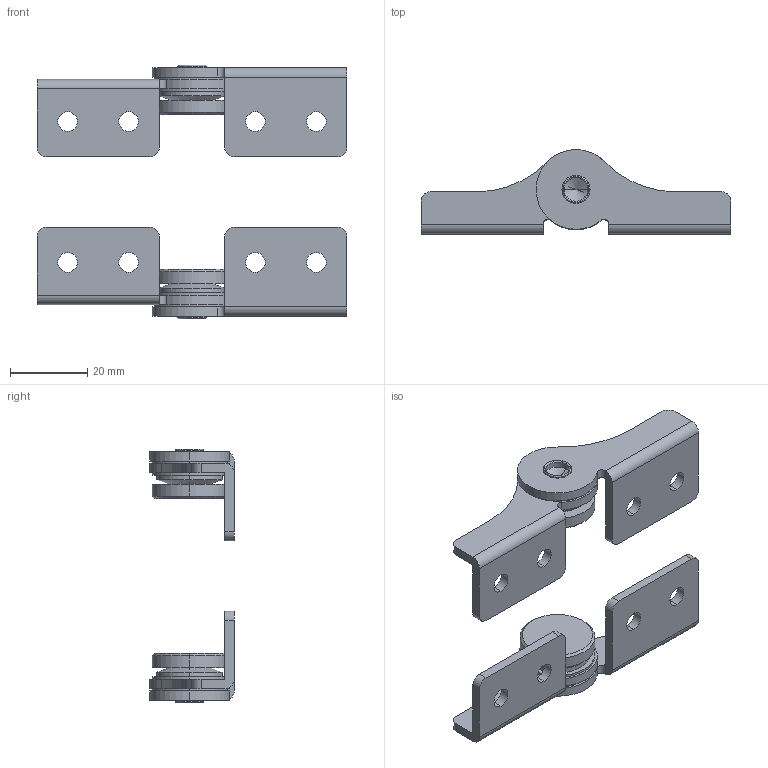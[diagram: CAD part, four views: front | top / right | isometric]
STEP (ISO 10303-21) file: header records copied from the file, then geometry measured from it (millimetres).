
FILE_DESCRIPTION (( 'STEP AP203' ), '1' );
FILE_NAME ('XG11-008-2.STEP', '2023-12-04T06:10:27', ( '' ), ( '' ), 'SwSTEP 2.0', 'SolidWorks 2020', '' );
FILE_SCHEMA (( 'CONFIG_CONTROL_DESIGN' ));
Length unit declared in the file: millimetre
Products named in the file (1): XG11-008-2
Bounding box: 80 x 21.81 x 65.45 mm (x, y, z)
Volume: 15705.7 mm3; surface area: 12274.9 mm2
Topology: 2 solids, 2 shells, 132 faces, 330 edges, 210 vertices
Faces by surface type: cylinder 74, plane 38, cone 12, torus 8
Entity records: 4082 total; most frequent: DIRECTION 758, CARTESIAN_POINT 686, ORIENTED_EDGE 652, EDGE_CURVE 326, AXIS2_PLACEMENT_3D 301, VERTEX_POINT 210, CIRCLE 168, EDGE_LOOP 160
